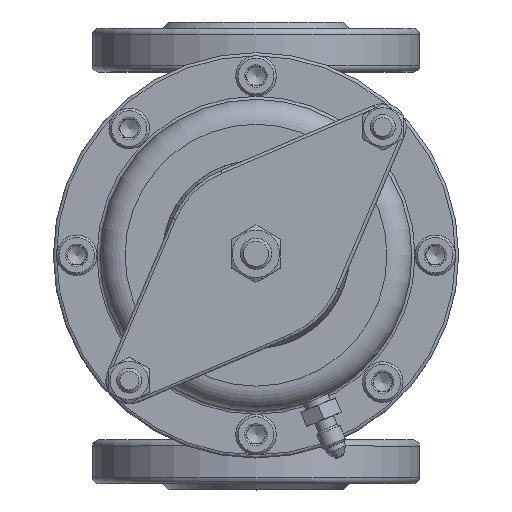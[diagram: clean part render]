
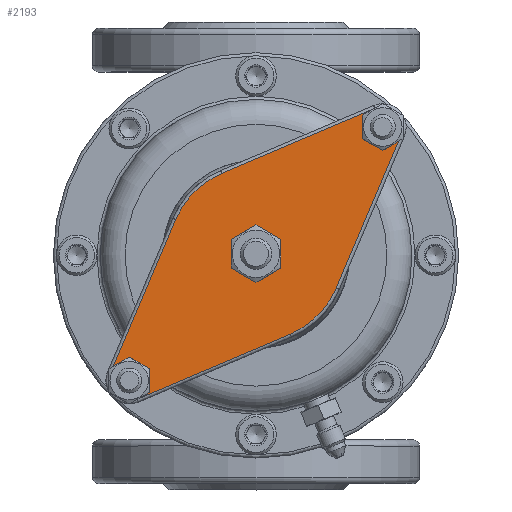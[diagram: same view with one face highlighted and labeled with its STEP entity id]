
A CAD part, top view. The second image highlights one B-rep face of the part: STEP entity #2193.
In plain terms, the highlighted planar face has unit normal (0, 0, 1) as drawn and (0, 1, 0) by its records, which use the part's own axes.
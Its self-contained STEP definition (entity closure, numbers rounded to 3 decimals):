
#2193=ADVANCED_FACE('',(#15786,#15788,#15790,#15792),#15794,.T.);
#15786=FACE_BOUND('',#15787,.T.);
#15787=EDGE_LOOP('',(#18258,#18259,#18260,#18261,#18262,#18263,#18264,#18265));
#15788=FACE_BOUND('',#15789,.T.);
#15789=EDGE_LOOP('',(#18266));
#15790=FACE_BOUND('',#15791,.T.);
#15791=EDGE_LOOP('',(#18267));
#15792=FACE_BOUND('',#15793,.T.);
#15793=EDGE_LOOP('',(#18268));
#15794=PLANE('',#15795);
#15795=AXIS2_PLACEMENT_3D('',#15796,#15797,#15798);
#15796=CARTESIAN_POINT('',(0.,353.5,0.));
#15797=DIRECTION('',(0.,1.,0.));
#15798=DIRECTION('',(0.,0.,1.));
#18258=ORIENTED_EDGE('',*,*,#20078,.T.);
#18259=ORIENTED_EDGE('',*,*,#20079,.T.);
#18260=ORIENTED_EDGE('',*,*,#20080,.T.);
#18261=ORIENTED_EDGE('',*,*,#20081,.T.);
#18262=ORIENTED_EDGE('',*,*,#20082,.T.);
#18263=ORIENTED_EDGE('',*,*,#20083,.T.);
#18264=ORIENTED_EDGE('',*,*,#20084,.T.);
#18265=ORIENTED_EDGE('',*,*,#20085,.T.);
#18266=ORIENTED_EDGE('',*,*,#20086,.T.);
#18267=ORIENTED_EDGE('',*,*,#20087,.T.);
#18268=ORIENTED_EDGE('',*,*,#20088,.T.);
#20078=EDGE_CURVE('',#21048,#21049,#21050,.T.);
#20079=EDGE_CURVE('',#21049,#21051,#21052,.T.);
#20080=EDGE_CURVE('',#21051,#21053,#21054,.T.);
#20081=EDGE_CURVE('',#21053,#21055,#21056,.T.);
#20082=EDGE_CURVE('',#21055,#21057,#21058,.T.);
#20083=EDGE_CURVE('',#21057,#21059,#21060,.T.);
#20084=EDGE_CURVE('',#21059,#21061,#21062,.T.);
#20085=EDGE_CURVE('',#21061,#21048,#21063,.T.);
#20086=EDGE_CURVE('',#21064,#21064,#21065,.F.);
#20087=EDGE_CURVE('',#21066,#21066,#21067,.F.);
#20088=EDGE_CURVE('',#21068,#21068,#21069,.F.);
#21048=VERTEX_POINT('',#29117);
#21049=VERTEX_POINT('',#29118);
#21050=LINE('',#29119,#29120);
#21051=VERTEX_POINT('',#29122);
#21052=CIRCLE('',#29123,28.);
#21053=VERTEX_POINT('',#29127);
#21054=LINE('',#29128,#29129);
#21055=VERTEX_POINT('',#29131);
#21056=CIRCLE('',#29132,6.5);
#21057=VERTEX_POINT('',#29136);
#21058=LINE('',#29137,#29138);
#21059=VERTEX_POINT('',#29140);
#21060=CIRCLE('',#29141,28.);
#21061=VERTEX_POINT('',#29145);
#21062=LINE('',#29146,#29147);
#21063=CIRCLE('',#29149,6.5);
#21064=VERTEX_POINT('',#29153);
#21065=CIRCLE('',#29154,5.);
#21066=VERTEX_POINT('',#29158);
#21067=CIRCLE('',#29159,6.);
#21068=VERTEX_POINT('',#29163);
#21069=CIRCLE('',#29164,5.);
#29117=CARTESIAN_POINT('',(-38.114,353.5,46.64));
#29118=CARTESIAN_POINT('',(10.96,353.5,25.766));
#29119=CARTESIAN_POINT('',(-38.114,353.5,46.64));
#29120=VECTOR('',#29121,1.);
#29121=DIRECTION('',(0.92,0.,-0.391));
#29122=CARTESIAN_POINT('',(25.766,353.5,10.96));
#29123=AXIS2_PLACEMENT_3D('',#29124,#29125,#29126);
#29124=CARTESIAN_POINT('',(0.,353.5,0.));
#29125=DIRECTION('',(0.,1.,0.));
#29126=DIRECTION('',(0.391,0.,0.92));
#29127=CARTESIAN_POINT('',(46.64,353.5,-38.114));
#29128=CARTESIAN_POINT('',(25.766,353.5,10.96));
#29129=VECTOR('',#29130,1.);
#29130=DIRECTION('',(0.391,0.,-0.92));
#29131=CARTESIAN_POINT('',(38.114,353.5,-46.64));
#29132=AXIS2_PLACEMENT_3D('',#29133,#29134,#29135);
#29133=CARTESIAN_POINT('',(40.659,353.5,-40.659));
#29134=DIRECTION('',(0.,1.,0.));
#29135=DIRECTION('',(0.92,0.,0.391));
#29136=CARTESIAN_POINT('',(-10.96,353.5,-25.766));
#29137=CARTESIAN_POINT('',(38.114,353.5,-46.64));
#29138=VECTOR('',#29139,1.);
#29139=DIRECTION('',(-0.92,0.,0.391));
#29140=CARTESIAN_POINT('',(-25.766,353.5,-10.96));
#29141=AXIS2_PLACEMENT_3D('',#29142,#29143,#29144);
#29142=CARTESIAN_POINT('',(0.,353.5,0.));
#29143=DIRECTION('',(0.,1.,0.));
#29144=DIRECTION('',(-0.391,0.,-0.92));
#29145=CARTESIAN_POINT('',(-46.64,353.5,38.114));
#29146=CARTESIAN_POINT('',(-25.766,353.5,-10.96));
#29147=VECTOR('',#29148,1.);
#29148=DIRECTION('',(-0.391,0.,0.92));
#29149=AXIS2_PLACEMENT_3D('',#29150,#29151,#29152);
#29150=CARTESIAN_POINT('',(-40.659,353.5,40.659));
#29151=DIRECTION('',(0.,1.,0.));
#29152=DIRECTION('',(-0.92,0.,-0.391));
#29153=CARTESIAN_POINT('',(-40.659,353.5,45.659));
#29154=AXIS2_PLACEMENT_3D('',#29155,#29156,#29157);
#29155=CARTESIAN_POINT('',(-40.659,353.5,40.659));
#29156=DIRECTION('',(0.,1.,0.));
#29157=DIRECTION('',(0.,0.,1.));
#29158=CARTESIAN_POINT('',(0.,353.5,6.));
#29159=AXIS2_PLACEMENT_3D('',#29160,#29161,#29162);
#29160=CARTESIAN_POINT('',(0.,353.5,0.));
#29161=DIRECTION('',(0.,1.,0.));
#29162=DIRECTION('',(0.,0.,1.));
#29163=CARTESIAN_POINT('',(40.659,353.5,-35.659));
#29164=AXIS2_PLACEMENT_3D('',#29165,#29166,#29167);
#29165=CARTESIAN_POINT('',(40.659,353.5,-40.659));
#29166=DIRECTION('',(0.,1.,0.));
#29167=DIRECTION('',(0.,0.,1.));
